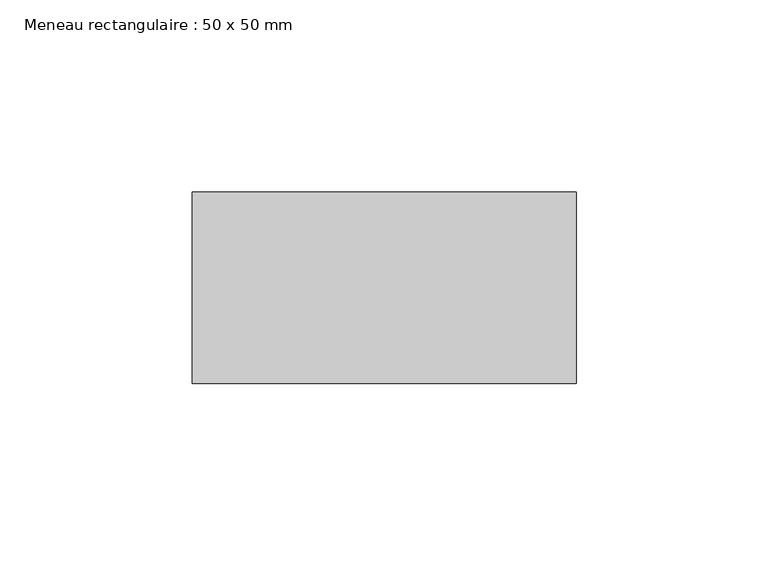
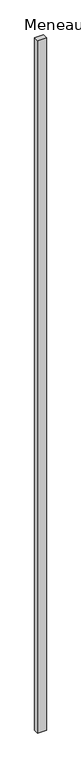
"""IFC4 building model written with IfcOpenShell, lengths in millimetres: member geometry, Meneau rectangulaire : 50 x 50 mm."""

from ifc_helpers import new_model, si_unit, frame, origin, place, context, project, spatial, polyline, outline, extrude, source, transform, mapped, element, save


def meneau_rectangulaire_50_x_50_mm_1c257011(model_context):
    return source(origin(), model_context, "Body", "SweptSolid", [
        extrude(outline(polyline([(0.0, 0.0), (0.0, -50.0), (-100.0, -50.0), (-100.0, 0.0), (0.0, 0.0)])), frame((0.0, 0.0, -8085.2074839), z_axis=(0.0, 0.0, 1.0), x_axis=(1.0, 0.0, 0.0)), (0.0, 0.0, 1.0), 8085.2074839),
    ])


if __name__ == "__main__":
    model = new_model("IFC4")
    model_context = context("Model", 3, world=origin())
    ifc_project = project(units=[si_unit("LENGTHUNIT", "METRE", prefix="MILLI")], contexts=[model_context])
    site = spatial("IfcSite", under=ifc_project)
    building = spatial("IfcBuilding", under=site)
    placement = place(None, origin())
    meneau_rectangulaire_50_x_50_mm_shape = meneau_rectangulaire_50_x_50_mm_1c257011(model_context)
    element("IfcMember", 1, ObjectType="Meneau rectangulaire : 50 x 50 mm", at=placement, inside=building, context=model_context, shape_type="MappedRepresentation", body=[
        mapped(meneau_rectangulaire_50_x_50_mm_shape, transform((0.0, 0.0, 0.0), x_axis=(1.0, 0.0, 0.0), y_axis=(0.0, 1.0, 0.0), z_axis=(0.0, 0.0, 1.0))),
    ])
    save(model, "model.ifc")
